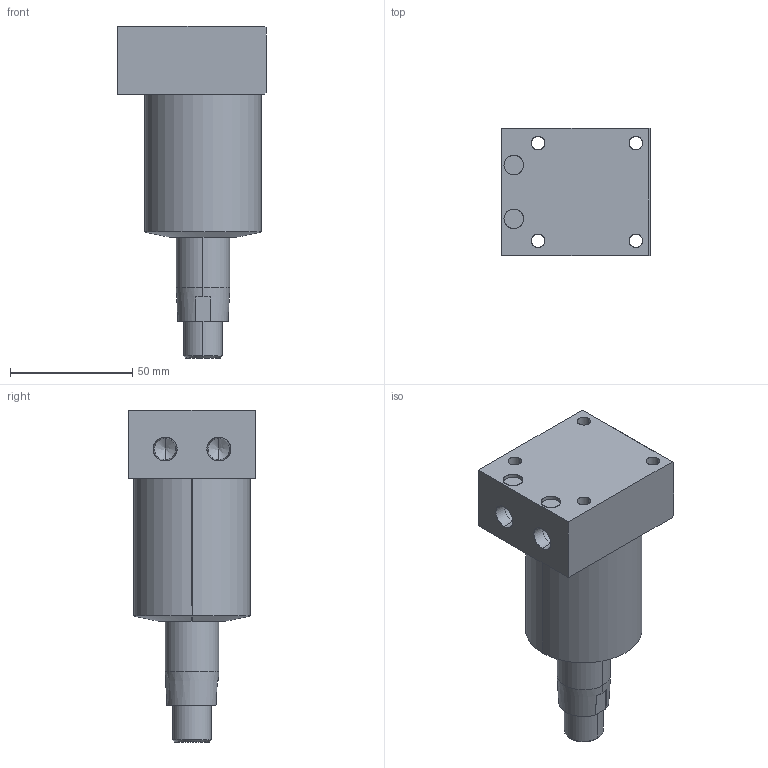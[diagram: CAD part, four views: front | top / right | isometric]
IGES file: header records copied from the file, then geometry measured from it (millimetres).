
Start section: SolidWorks IGES file using analytic representation for surfaces
Global section: file name: E:\ALL SSVT IGS MODEL\ALL-SWING-IGS\48-SWING\SWING-48-BM-TAPER-LH-RH\SB03-482-L-BM-TAPER.IGS; native system: SolidWorks 2019; preprocessor: SolidWorks 2019; author: SSVT; date: 210822.121623; units: millimetre
Bounding box: 61 x 52 x 136 mm (x, y, z)
Surface area: 35660.8 mm2 (no closed solid volume)
Topology: 0 solids, 0 shells, 57 faces, 982 edges, 978 vertices
Faces by surface type: revolution 38, bspline 19
